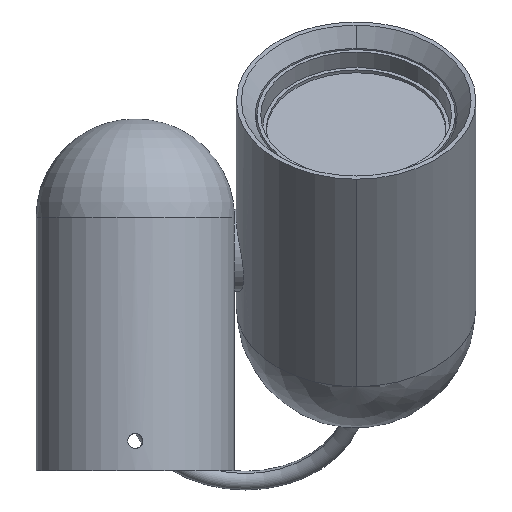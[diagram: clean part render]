
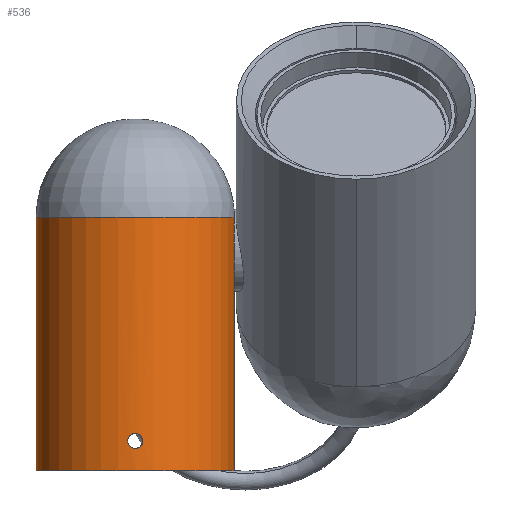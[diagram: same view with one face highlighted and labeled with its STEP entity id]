
A CAD part, front view. The second image highlights one B-rep face of the part: STEP entity #536.
In plain terms, the highlighted cylindrical face has radius 26.5 mm (diameter 53 mm), a partial arc.
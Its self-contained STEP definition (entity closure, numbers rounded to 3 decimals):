
#43 = LINE ( 'NONE', #7206, #5066 ) ;
#55 = CARTESIAN_POINT ( 'NONE',  ( 88., -26.5, -0.262 ) ) ;
#148 = FACE_OUTER_BOUND ( 'NONE', #3922, .T. ) ;
#169 = VERTEX_POINT ( 'NONE', #2316 ) ;
#301 = CARTESIAN_POINT ( 'NONE',  ( 84.203, -26.485, 0.888 ) ) ;
#378 = ORIENTED_EDGE ( 'NONE', *, *, #6043, .F. ) ;
#401 = CARTESIAN_POINT ( 'NONE',  ( 86., -26.424, 2. ) ) ;
#479 = ORIENTED_EDGE ( 'NONE', *, *, #4373, .F. ) ;
#536 = ADVANCED_FACE ( 'NONE', ( #148, #6398 ), #6683, .T. ) ;
#556 = VERTEX_POINT ( 'NONE', #6701 ) ;
#600 = CARTESIAN_POINT ( 'NONE',  ( 86.52, -26.429, 1.936 ) ) ;
#644 = CARTESIAN_POINT ( 'NONE',  ( 26.3, 0., 26.5 ) ) ;
#662 = CARTESIAN_POINT ( 'NONE',  ( 87.322, -26.457, -1.506 ) ) ;
#827 = CARTESIAN_POINT ( 'NONE',  ( 87.59, -26.472, 1.22 ) ) ;
#839 = CARTESIAN_POINT ( 'NONE',  ( 84.265, -26.481, 1.003 ) ) ;
#899 = ORIENTED_EDGE ( 'NONE', *, *, #1107, .F. ) ;
#906 = DIRECTION ( 'NONE',  ( -1., 0., 0. ) ) ;
#935 = ORIENTED_EDGE ( 'NONE', *, *, #2202, .F. ) ;
#1035 = CARTESIAN_POINT ( 'NONE',  ( 84.493, -26.467, -1.321 ) ) ;
#1055 = B_SPLINE_CURVE_WITH_KNOTS ( 'NONE', 3,
 ( #1251, #2408, #5981, #5397, #3019, #1834, #4239, #3607, #662, #6061, #4189, #7736, #55, #5422, #3554, #4132, #1860, #1755, #5955, #827, #4838, #2986, #2471, #4210, #6654, #7135, #600, #6548, #1225, #3040 ),
 .UNSPECIFIED., .F., .F.,
 ( 4, 2, 2, 2, 2, 2, 2, 2, 2, 2, 2, 2, 2, 2, 4 ),
 ( 0., 0., 0.001, 0.001, 0.002, 0.002, 0.003, 0.004, 0.004, 0.004, 0.005, 0.005, 0.005, 0.006, 0.006 ),
 .UNSPECIFIED. ) ;
#1059 = CARTESIAN_POINT ( 'NONE',  ( 84.992, -26.443, -1.747 ) ) ;
#1107 = EDGE_CURVE ( 'NONE', #169, #3036, #1055, .T. ) ;
#1225 = CARTESIAN_POINT ( 'NONE',  ( 86.131, -26.424, 2. ) ) ;
#1251 = CARTESIAN_POINT ( 'NONE',  ( 86., -26.424, -2. ) ) ;
#1297 = DIRECTION ( 'NONE',  ( -1., 0., 0. ) ) ;
#1438 = CARTESIAN_POINT ( 'NONE',  ( 85.739, -26.424, 2. ) ) ;
#1601 = CIRCLE ( 'NONE', #3125, 26.5 ) ;
#1621 = CARTESIAN_POINT ( 'NONE',  ( 85.736, -26.424, -2. ) ) ;
#1755 = CARTESIAN_POINT ( 'NONE',  ( 87.798, -26.485, 0.886 ) ) ;
#1834 = CARTESIAN_POINT ( 'NONE',  ( 86.887, -26.439, -1.797 ) ) ;
#1860 = CARTESIAN_POINT ( 'NONE',  ( 87.898, -26.492, 0.644 ) ) ;
#1962 = VECTOR ( 'NONE', #7669, 1000. ) ;
#2125 = CARTESIAN_POINT ( 'NONE',  ( 84., -26.5, 0.134 ) ) ;
#2201 = VERTEX_POINT ( 'NONE', #644 ) ;
#2202 = EDGE_CURVE ( 'NONE', #4715, #556, #43, .T. ) ;
#2228 = CARTESIAN_POINT ( 'NONE',  ( 84.063, -26.495, -0.516 ) ) ;
#2276 = CARTESIAN_POINT ( 'NONE',  ( 84.102, -26.492, -0.643 ) ) ;
#2316 = CARTESIAN_POINT ( 'NONE',  ( 86., -26.424, -2. ) ) ;
#2400 = VERTEX_POINT ( 'NONE', #6410 ) ;
#2408 = CARTESIAN_POINT ( 'NONE',  ( 86.132, -26.424, -2. ) ) ;
#2471 = CARTESIAN_POINT ( 'NONE',  ( 87.22, -26.452, 1.59 ) ) ;
#2522 = EDGE_CURVE ( 'NONE', #4715, #2400, #1601, .T. ) ;
#2880 = CARTESIAN_POINT ( 'NONE',  ( 84.769, -26.452, -1.598 ) ) ;
#2986 = CARTESIAN_POINT ( 'NONE',  ( 87.321, -26.457, 1.507 ) ) ;
#3019 = CARTESIAN_POINT ( 'NONE',  ( 86.645, -26.432, -1.898 ) ) ;
#3036 = VERTEX_POINT ( 'NONE', #401 ) ;
#3040 = CARTESIAN_POINT ( 'NONE',  ( 86., -26.424, 2. ) ) ;
#3125 = AXIS2_PLACEMENT_3D ( 'NONE', #4111, #3461, #5911 ) ;
#3270 = CARTESIAN_POINT ( 'NONE',  ( 84.994, -26.442, 1.748 ) ) ;
#3348 = CARTESIAN_POINT ( 'NONE',  ( 84.495, -26.467, 1.323 ) ) ;
#3437 = CARTESIAN_POINT ( 'NONE',  ( 0., 0., 26.5 ) ) ;
#3449 = AXIS2_PLACEMENT_3D ( 'NONE', #4892, #1297, #7285 ) ;
#3461 = DIRECTION ( 'NONE',  ( -1., 0., 0. ) ) ;
#3503 = EDGE_CURVE ( 'NONE', #2400, #2201, #6743, .T. ) ;
#3554 = CARTESIAN_POINT ( 'NONE',  ( 87.987, -26.499, 0.262 ) ) ;
#3603 = DIRECTION ( 'NONE',  ( -1., 0., 0. ) ) ;
#3607 = CARTESIAN_POINT ( 'NONE',  ( 87.219, -26.452, -1.591 ) ) ;
#3922 = EDGE_LOOP ( 'NONE', ( #935, #5337, #4063, #479 ) ) ;
#4063 = ORIENTED_EDGE ( 'NONE', *, *, #3503, .T. ) ;
#4111 = CARTESIAN_POINT ( 'NONE',  ( 94., 0., 0. ) ) ;
#4132 = CARTESIAN_POINT ( 'NONE',  ( 87.936, -26.495, 0.519 ) ) ;
#4189 = CARTESIAN_POINT ( 'NONE',  ( 87.748, -26.482, -1.006 ) ) ;
#4210 = CARTESIAN_POINT ( 'NONE',  ( 87.003, -26.443, 1.735 ) ) ;
#4239 = CARTESIAN_POINT ( 'NONE',  ( 87.002, -26.443, -1.736 ) ) ;
#4373 = EDGE_CURVE ( 'NONE', #556, #2201, #6482, .T. ) ;
#4427 = CARTESIAN_POINT ( 'NONE',  ( 84.41, -26.472, 1.22 ) ) ;
#4472 = CARTESIAN_POINT ( 'NONE',  ( 84.064, -26.495, 0.519 ) ) ;
#4601 = CARTESIAN_POINT ( 'NONE',  ( 86., -26.424, -2. ) ) ;
#4605 = EDGE_LOOP ( 'NONE', ( #899, #378 ) ) ;
#4627 = CARTESIAN_POINT ( 'NONE',  ( 84.013, -26.499, -0.261 ) ) ;
#4650 = CARTESIAN_POINT ( 'NONE',  ( 84.263, -26.481, -1.001 ) ) ;
#4715 = VERTEX_POINT ( 'NONE', #7415 ) ;
#4838 = CARTESIAN_POINT ( 'NONE',  ( 87.508, -26.467, 1.321 ) ) ;
#4892 = CARTESIAN_POINT ( 'NONE',  ( 0., 0., 0. ) ) ;
#5066 = VECTOR ( 'NONE', #906, 1000. ) ;
#5180 = AXIS2_PLACEMENT_3D ( 'NONE', #5394, #3603, #6518 ) ;
#5337 = ORIENTED_EDGE ( 'NONE', *, *, #2522, .T. ) ;
#5394 = CARTESIAN_POINT ( 'NONE',  ( 26.3, 0., 0. ) ) ;
#5397 = CARTESIAN_POINT ( 'NONE',  ( 86.518, -26.429, -1.936 ) ) ;
#5422 = CARTESIAN_POINT ( 'NONE',  ( 88., -26.5, 0.13 ) ) ;
#5643 = CARTESIAN_POINT ( 'NONE',  ( 84.013, -26.499, 0.263 ) ) ;
#5699 = CARTESIAN_POINT ( 'NONE',  ( 84.103, -26.492, 0.646 ) ) ;
#5911 = DIRECTION ( 'NONE',  ( 0., 0., 1. ) ) ;
#5955 = CARTESIAN_POINT ( 'NONE',  ( 87.735, -26.481, 1.003 ) ) ;
#5981 = CARTESIAN_POINT ( 'NONE',  ( 86.262, -26.425, -1.987 ) ) ;
#6043 = EDGE_CURVE ( 'NONE', #3036, #169, #7688, .T. ) ;
#6061 = CARTESIAN_POINT ( 'NONE',  ( 87.599, -26.472, -1.229 ) ) ;
#6240 = CARTESIAN_POINT ( 'NONE',  ( 84., -26.5, -0.13 ) ) ;
#6396 = CARTESIAN_POINT ( 'NONE',  ( 85.473, -26.429, -1.947 ) ) ;
#6398 = FACE_BOUND ( 'NONE', #4605, .T. ) ;
#6410 = CARTESIAN_POINT ( 'NONE',  ( 94., 0., 26.5 ) ) ;
#6420 = CARTESIAN_POINT ( 'NONE',  ( 84.408, -26.472, -1.218 ) ) ;
#6472 = CARTESIAN_POINT ( 'NONE',  ( 84.202, -26.485, -0.886 ) ) ;
#6482 = CIRCLE ( 'NONE', #5180, 26.5 ) ;
#6518 = DIRECTION ( 'NONE',  ( 0., 0., 1. ) ) ;
#6548 = CARTESIAN_POINT ( 'NONE',  ( 86.263, -26.425, 1.987 ) ) ;
#6654 = CARTESIAN_POINT ( 'NONE',  ( 86.887, -26.439, 1.798 ) ) ;
#6683 = CYLINDRICAL_SURFACE ( 'NONE', #3449, 26.5 ) ;
#6701 = CARTESIAN_POINT ( 'NONE',  ( 26.3, 0., -26.5 ) ) ;
#6743 = LINE ( 'NONE', #3437, #1962 ) ;
#6870 = CARTESIAN_POINT ( 'NONE',  ( 86., -26.424, 2. ) ) ;
#6916 = CARTESIAN_POINT ( 'NONE',  ( 85.476, -26.429, 1.948 ) ) ;
#7135 = CARTESIAN_POINT ( 'NONE',  ( 86.644, -26.432, 1.898 ) ) ;
#7206 = CARTESIAN_POINT ( 'NONE',  ( 0., 0., -26.5 ) ) ;
#7285 = DIRECTION ( 'NONE',  ( 0., 0., 1. ) ) ;
#7415 = CARTESIAN_POINT ( 'NONE',  ( 94., 0., -26.5 ) ) ;
#7476 = CARTESIAN_POINT ( 'NONE',  ( 84.771, -26.452, 1.599 ) ) ;
#7669 = DIRECTION ( 'NONE',  ( -1., 0., 0. ) ) ;
#7688 = B_SPLINE_CURVE_WITH_KNOTS ( 'NONE', 3,
 ( #6870, #1438, #6916, #3270, #7476, #3348, #4427, #839, #301, #5699, #4472, #5643, #2125, #6240, #4627, #2228, #2276, #6472, #4650, #6420, #1035, #2880, #1059, #6396, #1621, #4601 ),
 .UNSPECIFIED., .F., .F.,
 ( 4, 2, 2, 2, 2, 2, 2, 2, 2, 2, 2, 2, 4 ),
 ( 0.006, 0.007, 0.008, 0.008, 0.009, 0.009, 0.009, 0.01, 0.01, 0.011, 0.011, 0.012, 0.013 ),
 .UNSPECIFIED. ) ;
#7736 = CARTESIAN_POINT ( 'NONE',  ( 87.947, -26.496, -0.525 ) ) ;
